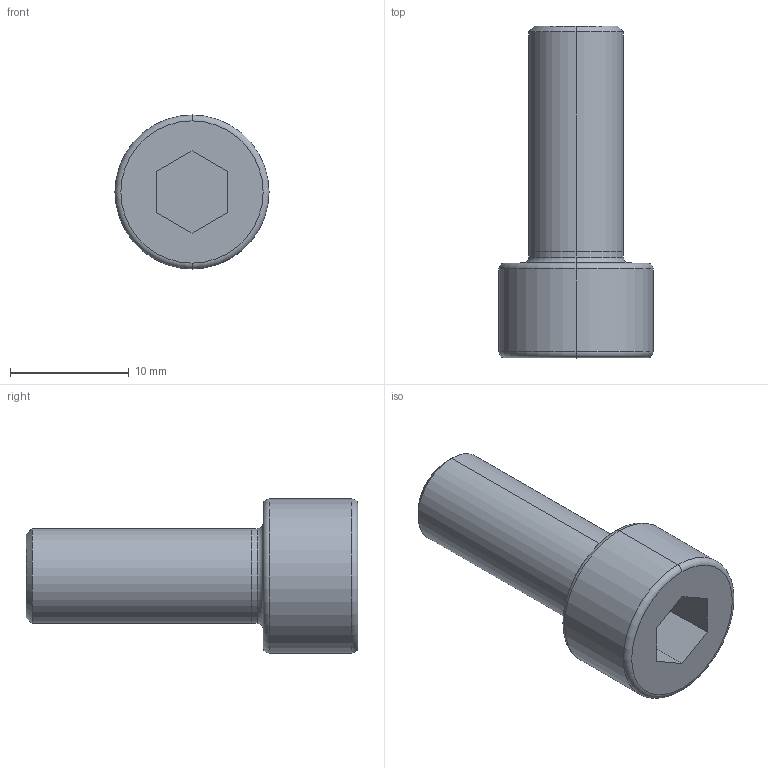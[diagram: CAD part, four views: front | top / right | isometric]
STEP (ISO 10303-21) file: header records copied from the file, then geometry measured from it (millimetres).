
FILE_DESCRIPTION (( 'STEP AP214' ), '1' );
FILE_NAME ('M_08X020.STEP', '2016-03-08T00:39:56', ( '' ), ( '' ), 'SwSTEP 2.0', 'SolidWorks 2014', '' );
FILE_SCHEMA (( 'AUTOMOTIVE_DESIGN' ));
Length unit declared in the file: millimetre
Products named in the file (1): M_08X020
Bounding box: 13 x 28 x 13 mm (x, y, z)
Volume: 1874.2 mm3; surface area: 1188.8 mm2
Topology: 1 solids, 1 shells, 25 faces, 52 edges, 32 vertices
Faces by surface type: plane 11, torus 6, cylinder 6, cone 2
Entity records: 746 total; most frequent: DIRECTION 130, CARTESIAN_POINT 110, ORIENTED_EDGE 104, EDGE_CURVE 52, AXIS2_PLACEMENT_3D 52, VERTEX_POINT 32, EDGE_LOOP 28, CIRCLE 26
